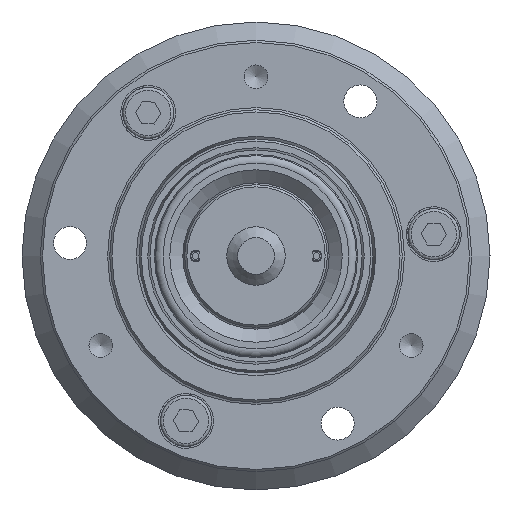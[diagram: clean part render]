
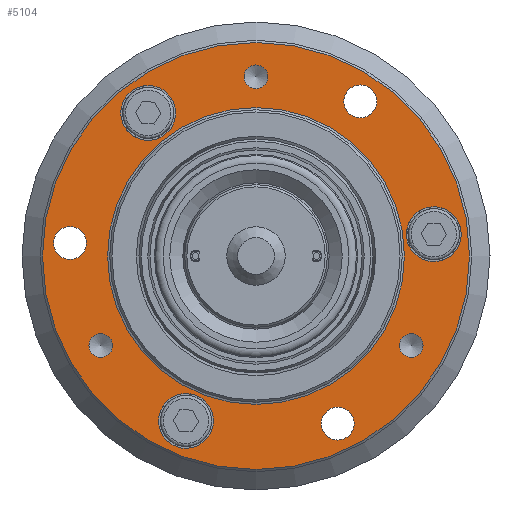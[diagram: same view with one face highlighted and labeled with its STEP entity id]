
A CAD part, left-side view. The second image highlights one B-rep face of the part: STEP entity #5104.
In plain terms, the highlighted planar face has unit normal (-1, 0, 0).
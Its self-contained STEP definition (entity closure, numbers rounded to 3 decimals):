
#244=FACE_BOUND('',#963,.T.);
#245=FACE_BOUND('',#964,.T.);
#246=FACE_BOUND('',#965,.T.);
#247=FACE_BOUND('',#966,.T.);
#248=FACE_BOUND('',#967,.T.);
#249=FACE_BOUND('',#968,.T.);
#250=FACE_BOUND('',#969,.T.);
#251=FACE_BOUND('',#970,.T.);
#252=FACE_BOUND('',#971,.T.);
#253=FACE_BOUND('',#972,.T.);
#405=PLANE('',#5530);
#611=FACE_OUTER_BOUND('',#962,.T.);
#962=EDGE_LOOP('',(#3629));
#963=EDGE_LOOP('',(#3630));
#964=EDGE_LOOP('',(#3631));
#965=EDGE_LOOP('',(#3632));
#966=EDGE_LOOP('',(#3633));
#967=EDGE_LOOP('',(#3634));
#968=EDGE_LOOP('',(#3635));
#969=EDGE_LOOP('',(#3636));
#970=EDGE_LOOP('',(#3637));
#971=EDGE_LOOP('',(#3638));
#972=EDGE_LOOP('',(#3639));
#2017=CIRCLE('',#5520,29.2);
#2019=CIRCLE('',#5523,1.621);
#2021=CIRCLE('',#5527,3.75);
#2023=CIRCLE('',#5531,2.25);
#2024=CIRCLE('',#5532,3.75);
#2025=CIRCLE('',#5533,1.621);
#2026=CIRCLE('',#5534,2.25);
#2027=CIRCLE('',#5535,3.75);
#2028=CIRCLE('',#5536,1.621);
#2029=CIRCLE('',#5537,2.25);
#2030=CIRCLE('',#5538,20.3);
#2315=VERTEX_POINT('',#7724);
#2317=VERTEX_POINT('',#7729);
#2319=VERTEX_POINT('',#7735);
#2321=VERTEX_POINT('',#7741);
#2322=VERTEX_POINT('',#7743);
#2323=VERTEX_POINT('',#7745);
#2324=VERTEX_POINT('',#7747);
#2325=VERTEX_POINT('',#7749);
#2326=VERTEX_POINT('',#7751);
#2327=VERTEX_POINT('',#7753);
#2328=VERTEX_POINT('',#7755);
#2836=EDGE_CURVE('',#2315,#2315,#2017,.T.);
#2838=EDGE_CURVE('',#2317,#2317,#2019,.T.);
#2840=EDGE_CURVE('',#2319,#2319,#2021,.T.);
#2842=EDGE_CURVE('',#2321,#2321,#2023,.T.);
#2843=EDGE_CURVE('',#2322,#2322,#2024,.T.);
#2844=EDGE_CURVE('',#2323,#2323,#2025,.T.);
#2845=EDGE_CURVE('',#2324,#2324,#2026,.T.);
#2846=EDGE_CURVE('',#2325,#2325,#2027,.T.);
#2847=EDGE_CURVE('',#2326,#2326,#2028,.T.);
#2848=EDGE_CURVE('',#2327,#2327,#2029,.T.);
#2849=EDGE_CURVE('',#2328,#2328,#2030,.T.);
#3629=ORIENTED_EDGE('',*,*,#2836,.F.);
#3630=ORIENTED_EDGE('',*,*,#2842,.T.);
#3631=ORIENTED_EDGE('',*,*,#2843,.T.);
#3632=ORIENTED_EDGE('',*,*,#2844,.T.);
#3633=ORIENTED_EDGE('',*,*,#2845,.T.);
#3634=ORIENTED_EDGE('',*,*,#2846,.T.);
#3635=ORIENTED_EDGE('',*,*,#2847,.T.);
#3636=ORIENTED_EDGE('',*,*,#2838,.T.);
#3637=ORIENTED_EDGE('',*,*,#2840,.T.);
#3638=ORIENTED_EDGE('',*,*,#2848,.T.);
#3639=ORIENTED_EDGE('',*,*,#2849,.F.);
#5104=ADVANCED_FACE('',(#611,#244,#245,#246,#247,#248,#249,#250,#251,#252,
#253),#405,.T.);
#5520=AXIS2_PLACEMENT_3D('',#7725,#6331,#6332);
#5523=AXIS2_PLACEMENT_3D('',#7730,#6337,#6338);
#5527=AXIS2_PLACEMENT_3D('',#7736,#6345,#6346);
#5530=AXIS2_PLACEMENT_3D('',#7740,#6351,#6352);
#5531=AXIS2_PLACEMENT_3D('',#7742,#6353,#6354);
#5532=AXIS2_PLACEMENT_3D('',#7744,#6355,#6356);
#5533=AXIS2_PLACEMENT_3D('',#7746,#6357,#6358);
#5534=AXIS2_PLACEMENT_3D('',#7748,#6359,#6360);
#5535=AXIS2_PLACEMENT_3D('',#7750,#6361,#6362);
#5536=AXIS2_PLACEMENT_3D('',#7752,#6363,#6364);
#5537=AXIS2_PLACEMENT_3D('',#7754,#6365,#6366);
#5538=AXIS2_PLACEMENT_3D('',#7756,#6367,#6368);
#6331=DIRECTION('center_axis',(1.,0.,0.));
#6332=DIRECTION('ref_axis',(0.,0.,
-1.));
#6337=DIRECTION('center_axis',(1.,0.,0.));
#6338=DIRECTION('ref_axis',(0.,-1.,0.));
#6345=DIRECTION('center_axis',(1.,0.,0.));
#6346=DIRECTION('ref_axis',(0.,-1.,0.));
#6351=DIRECTION('center_axis',(-1.,0.,0.));
#6352=DIRECTION('ref_axis',(0.,-1.,0.));
#6353=DIRECTION('center_axis',(1.,0.,0.));
#6354=DIRECTION('ref_axis',(0.,0.5,0.866));
#6355=DIRECTION('center_axis',(1.,0.,0.));
#6356=DIRECTION('ref_axis',(0.,0.5,0.866));
#6357=DIRECTION('center_axis',(1.,0.,0.));
#6358=DIRECTION('ref_axis',(0.,0.5,0.866));
#6359=DIRECTION('center_axis',(1.,0.,0.));
#6360=DIRECTION('ref_axis',(0.,0.5,-0.866));
#6361=DIRECTION('center_axis',(1.,0.,0.));
#6362=DIRECTION('ref_axis',(0.,0.5,-0.866));
#6363=DIRECTION('center_axis',(1.,0.,0.));
#6364=DIRECTION('ref_axis',(0.,0.5,-0.866));
#6365=DIRECTION('center_axis',(1.,0.,0.));
#6366=DIRECTION('ref_axis',(0.,-1.,0.));
#6367=DIRECTION('center_axis',(-1.,0.,0.));
#6368=DIRECTION('ref_axis',(0.,0.,
-1.));
#7724=CARTESIAN_POINT('',(3.,0.,29.2));
#7725=CARTESIAN_POINT('Origin',(3.,0.,0.));
#7729=CARTESIAN_POINT('',(3.,1.621,24.5));
#7730=CARTESIAN_POINT('Origin',(3.,0.,24.5));
#7735=CARTESIAN_POINT('',(3.,18.494,19.567));
#7736=CARTESIAN_POINT('Origin',(3.,14.744,19.567));
#7740=CARTESIAN_POINT('Origin',(3.,0.,24.75));
#7741=CARTESIAN_POINT('',(3.,24.313,-0.17));
#7742=CARTESIAN_POINT('Origin',(3.,25.438,1.779));
#7743=CARTESIAN_POINT('',(3.,7.698,-25.8));
#7744=CARTESIAN_POINT('Origin',(3.,9.573,-22.552));
#7745=CARTESIAN_POINT('',(3.,20.407,-13.654));
#7746=CARTESIAN_POINT('Origin',(3.,21.218,-12.25));
#7747=CARTESIAN_POINT('',(3.,-12.303,-20.971));
#7748=CARTESIAN_POINT('Origin',(3.,-11.178,-22.919));
#7749=CARTESIAN_POINT('',(3.,-26.192,6.233));
#7750=CARTESIAN_POINT('Origin',(3.,-24.317,2.986));
#7751=CARTESIAN_POINT('',(3.,-22.028,-10.846));
#7752=CARTESIAN_POINT('Origin',(3.,-21.218,-12.25));
#7753=CARTESIAN_POINT('',(3.,-14.259,23.39));
#7754=CARTESIAN_POINT('Origin',(3.,-14.259,21.14));
#7755=CARTESIAN_POINT('',(3.,0.,20.3));
#7756=CARTESIAN_POINT('Origin',(3.,0.,0.));
